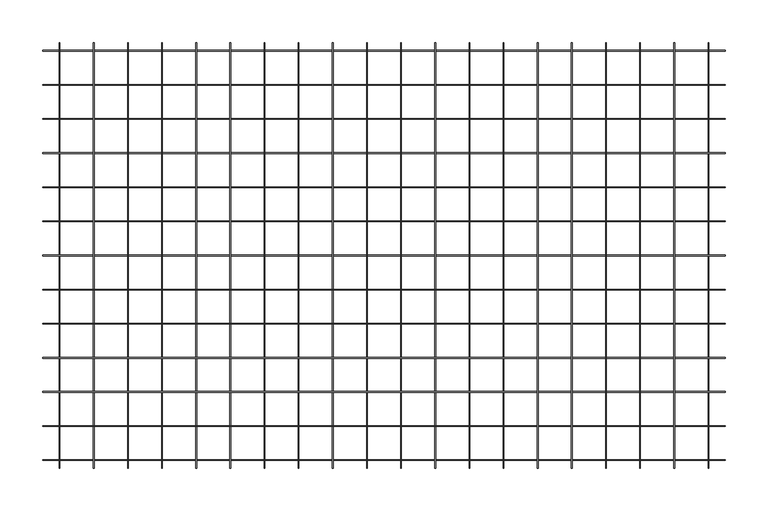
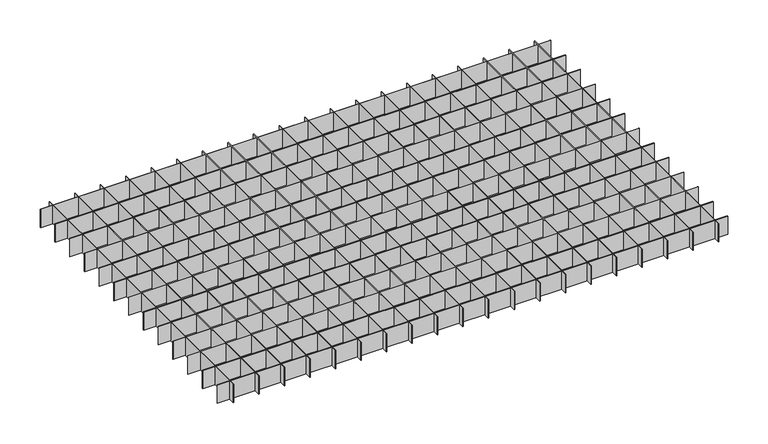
"""IFC4 building model written with IfcOpenShell, lengths in millimetres: proxy geometry, durlum_QUADRA_panel : durlum_QUADRA_corner_cut."""

from ifc_helpers import new_model, si_unit, origin, origin_with_axes, place, context, project, spatial, polyline, outline, extrude, source, transform, mapped, element, save


def generic_models_a736a9a8(model_context):
    return source(origin(), model_context, "Body", "SweptSolid", [
        extrude(outline(polyline([(339.6, 249.5), (340.4, 249.5), (340.4, -249.5), (339.6, -249.5), (339.6, 249.5)])), origin_with_axes(), (0.0, 0.0, 1.0), 30.0),
        extrude(outline(polyline([(299.6, 249.5), (300.4, 249.5), (300.4, -249.5), (299.6, -249.5), (299.6, 249.5)])), origin_with_axes(), (0.0, 0.0, 1.0), 30.0),
        extrude(outline(polyline([(259.6, 249.5), (260.4, 249.5), (260.4, -249.5), (259.6, -249.5), (259.6, 249.5)])), origin_with_axes(), (0.0, 0.0, 1.0), 30.0),
        extrude(outline(polyline([(219.6, 249.5), (220.4, 249.5), (220.4, -249.5), (219.6, -249.5), (219.6, 249.5)])), origin_with_axes(), (0.0, 0.0, 1.0), 30.0),
        extrude(outline(polyline([(179.6, 249.5), (180.4, 249.5), (180.4, -249.5), (179.6, -249.5), (179.6, 249.5)])), origin_with_axes(), (0.0, 0.0, 1.0), 30.0),
        extrude(outline(polyline([(399.75, -199.6), (399.75, -200.4), (-399.75, -200.4), (-399.75, -199.6), (399.75, -199.6)])), origin_with_axes(), (0.0, 0.0, 1.0), 30.0),
        extrude(outline(polyline([(399.75, -159.6), (399.75, -160.4), (-399.75, -160.4), (-399.75, -159.6), (399.75, -159.6)])), origin_with_axes(), (0.0, 0.0, 1.0), 30.0),
        extrude(outline(polyline([(399.75, -119.6), (399.75, -120.4), (-399.75, -120.4), (-399.75, -119.6), (399.75, -119.6)])), origin_with_axes(), (0.0, 0.0, 1.0), 30.0),
        extrude(outline(polyline([(399.75, -79.6), (399.75, -80.4), (-399.75, -80.4), (-399.75, -79.6), (399.75, -79.6)])), origin_with_axes(), (0.0, 0.0, 1.0), 30.0),
        extrude(outline(polyline([(399.75, -39.6), (399.75, -40.4), (-399.75, -40.4), (-399.75, -39.6), (399.75, -39.6)])), origin_with_axes(), (0.0, 0.0, 1.0), 30.0),
        extrude(outline(polyline([(139.6, 249.5), (140.4, 249.5), (140.4, -249.5), (139.6, -249.5), (139.6, 249.5)])), origin_with_axes(), (0.0, 0.0, 1.0), 30.0),
        extrude(outline(polyline([(99.6, 249.5), (100.4, 249.5), (100.4, -249.5), (99.6, -249.5), (99.6, 249.5)])), origin_with_axes(), (0.0, 0.0, 1.0), 30.0),
        extrude(outline(polyline([(59.6, 249.5), (60.4, 249.5), (60.4, -249.5), (59.6, -249.5), (59.6, 249.5)])), origin_with_axes(), (0.0, 0.0, 1.0), 30.0),
        extrude(outline(polyline([(19.6, 249.5), (20.4, 249.5), (20.4, -249.5), (19.6, -249.5), (19.6, 249.5)])), origin_with_axes(), (0.0, 0.0, 1.0), 30.0),
        extrude(outline(polyline([(-20.4, 249.5), (-19.6, 249.5), (-19.6, -249.5), (-20.4, -249.5), (-20.4, 249.5)])), origin_with_axes(), (0.0, 0.0, 1.0), 30.0),
        extrude(outline(polyline([(-60.4, 249.5), (-59.6, 249.5), (-59.6, -249.5), (-60.4, -249.5), (-60.4, 249.5)])), origin_with_axes(), (0.0, 0.0, 1.0), 30.0),
        extrude(outline(polyline([(-100.4, 249.5), (-99.6, 249.5), (-99.6, -249.5), (-100.4, -249.5), (-100.4, 249.5)])), origin_with_axes(), (0.0, 0.0, 1.0), 30.0),
        extrude(outline(polyline([(-140.4, 249.5), (-139.6, 249.5), (-139.6, -249.5), (-140.4, -249.5), (-140.4, 249.5)])), origin_with_axes(), (0.0, 0.0, 1.0), 30.0),
        extrude(outline(polyline([(-180.4, 249.5), (-179.6, 249.5), (-179.6, -249.5), (-180.4, -249.5), (-180.4, 249.5)])), origin_with_axes(), (0.0, 0.0, 1.0), 30.0),
        extrude(outline(polyline([(-220.4, 249.5), (-219.6, 249.5), (-219.6, -249.5), (-220.4, -249.5), (-220.4, 249.5)])), origin_with_axes(), (0.0, 0.0, 1.0), 30.0),
        extrude(outline(polyline([(-260.4, 249.5), (-259.6, 249.5), (-259.6, -249.5), (-260.4, -249.5), (-260.4, 249.5)])), origin_with_axes(), (0.0, 0.0, 1.0), 30.0),
        extrude(outline(polyline([(-300.4, 249.5), (-299.6, 249.5), (-299.6, -249.5), (-300.4, -249.5), (-300.4, 249.5)])), origin_with_axes(), (0.0, 0.0, 1.0), 30.0),
        extrude(outline(polyline([(-340.4, 249.5), (-339.6, 249.5), (-339.6, -249.5), (-340.4, -249.5), (-340.4, 249.5)])), origin_with_axes(), (0.0, 0.0, 1.0), 30.0),
        extrude(outline(polyline([(399.75, 0.4), (399.75, -0.4), (-399.75, -0.4), (-399.75, 0.4), (399.75, 0.4)])), origin_with_axes(), (0.0, 0.0, 1.0), 30.0),
        extrude(outline(polyline([(399.75, 40.4), (399.75, 39.6), (-399.75, 39.6), (-399.75, 40.4), (399.75, 40.4)])), origin_with_axes(), (0.0, 0.0, 1.0), 30.0),
        extrude(outline(polyline([(399.75, 80.4), (399.75, 79.6), (-399.75, 79.6), (-399.75, 80.4), (399.75, 80.4)])), origin_with_axes(), (0.0, 0.0, 1.0), 30.0),
        extrude(outline(polyline([(399.75, 120.4), (399.75, 119.6), (-399.75, 119.6), (-399.75, 120.4), (399.75, 120.4)])), origin_with_axes(), (0.0, 0.0, 1.0), 30.0),
        extrude(outline(polyline([(399.75, 160.4), (399.75, 159.6), (-399.75, 159.6), (-399.75, 160.4), (399.75, 160.4)])), origin_with_axes(), (0.0, 0.0, 1.0), 30.0),
        extrude(outline(polyline([(399.75, 200.4), (399.75, 199.6), (-399.75, 199.6), (-399.75, 200.4), (399.75, 200.4)])), origin_with_axes(), (0.0, 0.0, 1.0), 30.0),
        extrude(outline(polyline([(379.6, 249.5), (380.4, 249.5), (380.4, -249.5), (379.6, -249.5), (379.6, 249.5)])), origin_with_axes(), (0.0, 0.0, 1.0), 30.0),
        extrude(outline(polyline([(-380.4, 249.5), (-379.6, 249.5), (-379.6, -249.5), (-380.4, -249.5), (-380.4, 249.5)])), origin_with_axes(), (0.0, 0.0, 1.0), 30.0),
        extrude(outline(polyline([(399.75, -239.6), (399.75, -240.4), (-399.75, -240.4), (-399.75, -239.6), (399.75, -239.6)])), origin_with_axes(), (0.0, 0.0, 1.0), 30.0),
        extrude(outline(polyline([(399.75, 240.4), (399.75, 239.6), (-399.75, 239.6), (-399.75, 240.4), (399.75, 240.4)])), origin_with_axes(), (0.0, 0.0, 1.0), 30.0),
    ])


if __name__ == "__main__":
    model = new_model("IFC4")
    model_context = context("Model", 3, world=origin())
    ifc_project = project(units=[si_unit("LENGTHUNIT", "METRE", prefix="MILLI")], contexts=[model_context])
    site = spatial("IfcSite", under=ifc_project)
    building = spatial("IfcBuilding", under=site)
    placement = place(None, origin())
    generic_models_shape = generic_models_a736a9a8(model_context)
    element("IfcBuildingElementProxy", 1, Name="durlum_QUADRA_panel : durlum_QUADRA_corner_cut", ObjectType="durlum_QUADRA_panel : durlum_QUADRA_corner_cut", at=placement, inside=building, context=model_context, shape_type="MappedRepresentation", body=[
        mapped(generic_models_shape, transform((0.0, 0.0, 0.0), x_axis=(1.0, 0.0, 0.0), y_axis=(0.0, 1.0, 0.0), z_axis=(0.0, 0.0, 1.0))),
    ])
    save(model, "model.ifc")
